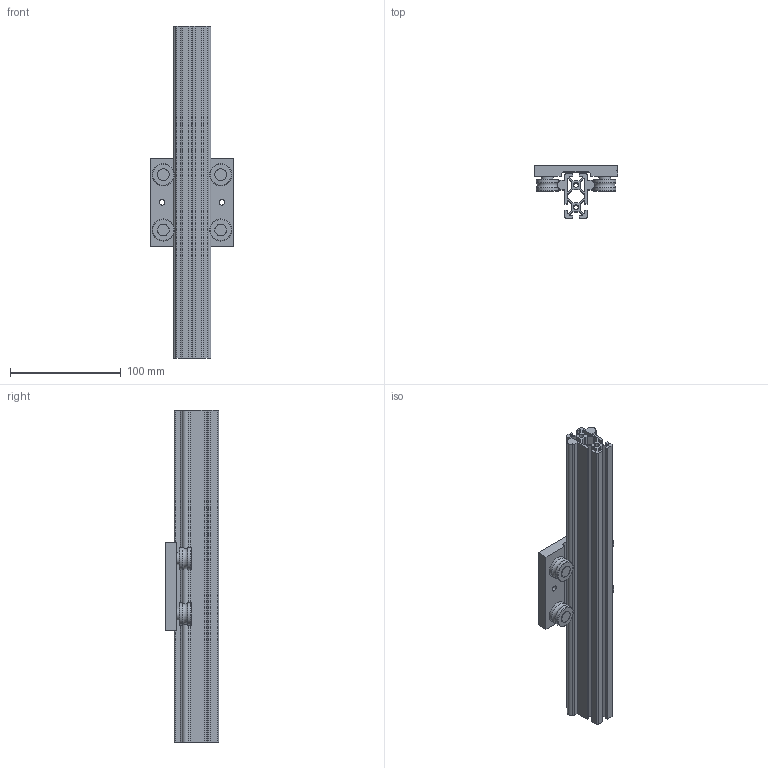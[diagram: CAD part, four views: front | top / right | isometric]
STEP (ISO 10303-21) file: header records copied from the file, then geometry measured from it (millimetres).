
FILE_DESCRIPTION (( 'STEP AP214' ), '1' );
FILE_NAME ('LSAP2040.STEP', '2021-12-15T06:56:40', ( '' ), ( '' ), 'SwSTEP 2.0', 'SolidWorks 2019', '' );
FILE_SCHEMA (( 'AUTOMOTIVE_DESIGN' ));
Length unit declared in the file: millimetre
Products named in the file (3): LSAP2040; LSAP2040レール; LSAP2040キャリッジ
Assembly tree (2 placements, depth 2):
  LSAP2040
    LSAP2040レール
    LSAP2040キャリッジ
Bounding box: 75 x 48 x 300 mm (x, y, z)
Volume: 195481.6 mm3; surface area: 129698.9 mm2
Topology: 6 solids, 6 shells, 292 faces, 716 edges, 456 vertices
Faces by surface type: plane 171, cylinder 57, cone 52, torus 12
Full cylindrical faces by diameter (mm): 4.2 x2, 5 x4, 6 x8, 10.6 x8, 15 x4, 20 x8
Entity records: 10485 total; most frequent: CARTESIAN_POINT 1859, DIRECTION 1334, ORIENTED_EDGE 1324, EDGE_CURVE 662, AXIS2_PLACEMENT_3D 471, VERTEX_POINT 452, LINE 392, VECTOR 392
